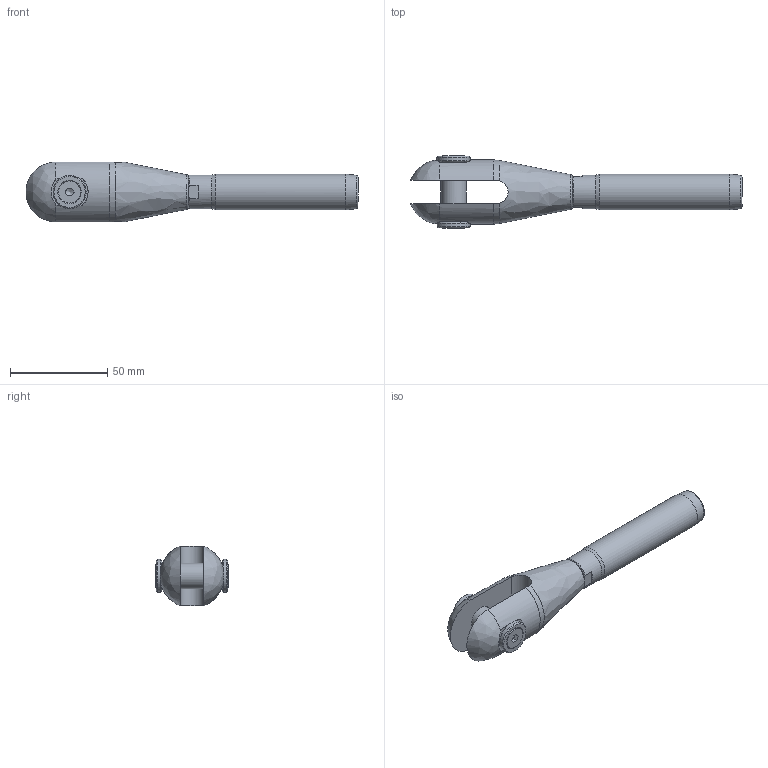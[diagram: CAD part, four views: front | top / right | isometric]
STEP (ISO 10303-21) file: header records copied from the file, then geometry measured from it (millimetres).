
FILE_DESCRIPTION(/* description */ (''),/* implementation_level */ '2;1');
FILE_NAME(/* name */ 'MAC-R 08_1,4418',/* time_stamp */ '2023-05-23T17:52:04+02:00',/* author */ (''),/* organization */ (''),/* preprocessor_version */ 'ST-DEVELOPER v16.5',/* originating_system */ 'Rhino 7.22',/* authorisation */ '');
FILE_SCHEMA (('CONFIG_CONTROL_DESIGN'));
Length unit declared in the file: millimetre
Products named in the file (1): Document
Bounding box: 170.35 x 37.38 x 30.74 mm (x, y, z)
Volume: 61451.7 mm3; surface area: 21232.8 mm2
Topology: 7 solids, 7 shells, 88 faces, 246 edges, 171 vertices
Faces by surface type: plane 36, bspline 28, cylinder 24
Full cylindrical faces by diameter (mm): 4.917 x2, 6 x2, 6.5 x2, 11.34 x2, 11.835 x1, 13 x1, 14 x3, 17 x2, 17.4 x1, 18.3 x1
Entity records: 3486 total; most frequent: CARTESIAN_POINT 1923, ORIENTED_EDGE 482, EDGE_CURVE 241, VERTEX_POINT 171, EDGE_LOOP 100, B_SPLINE_CURVE_WITH_KNOTS 97, ADVANCED_FACE 88, FACE_OUTER_BOUND 88
